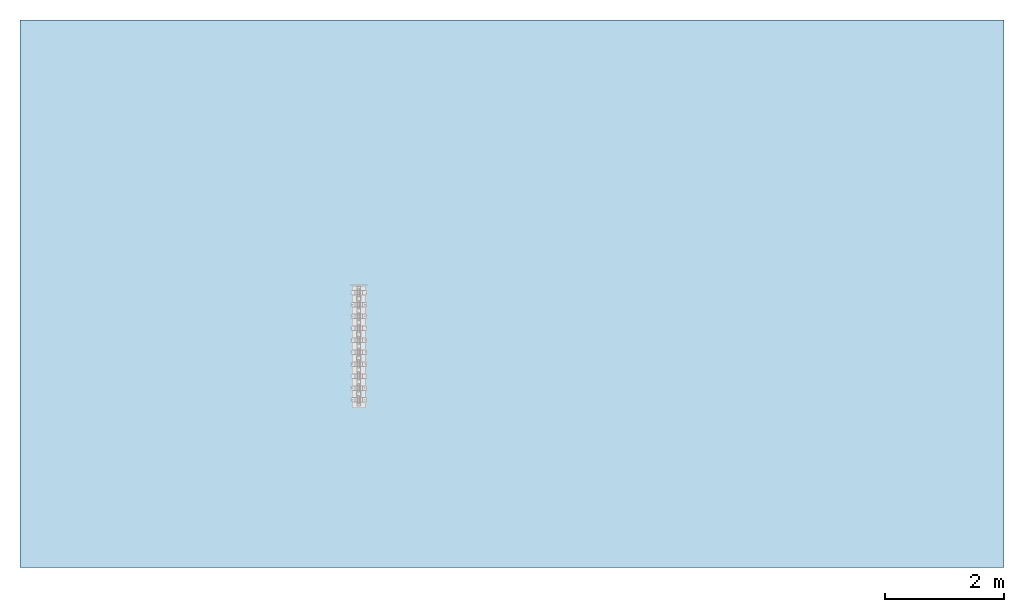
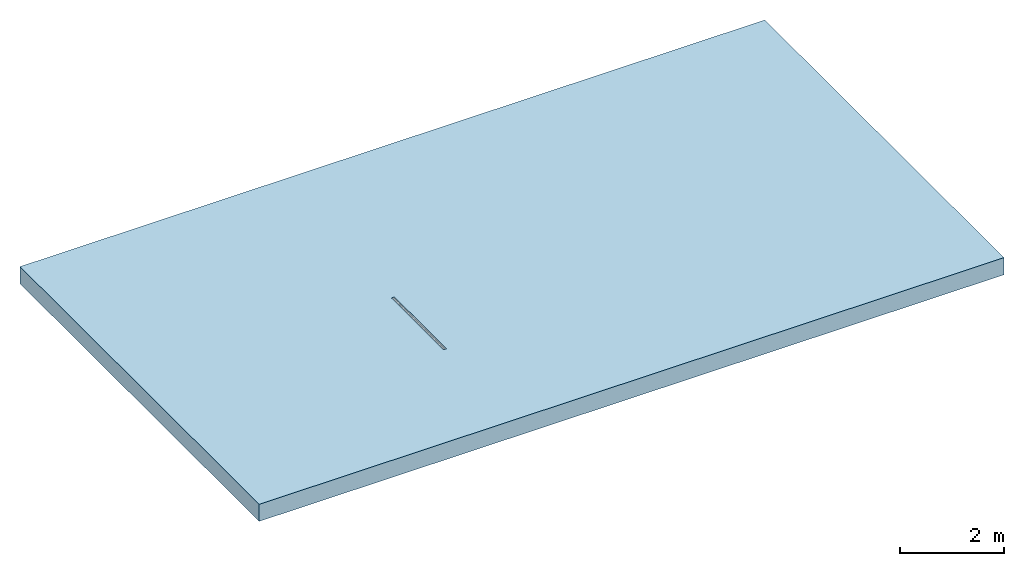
# One storey, incomplete: 1 slab, 1 opening.
"""IFC2X3 building model written with IfcOpenShell, lengths in millimetres."""

from ifc_helpers import new_model, entity, si_unit, converted_unit, direction, frame, frame_2d, origin, place, context, subcontext, project, spatial, polyline, rectangle, outline, extrude, material, layer, layer_set, layer_usage, element, save


model = new_model("IFC2X3")

# Units and contexts
model_context = context("Model", 3, precision=1e-06, world=origin(), true_north=direction((2.0, 6.12303176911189e-17, 1.0)))
context_of_model = context(None, 3, precision=1e-06, world=origin(), true_north=direction((2.0, 6.12303176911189e-17, 1.0)))
body_context = subcontext(model_context, "Body", "Model", "MODEL_VIEW")
ifc_project = project(units=[si_unit("LENGTHUNIT", "METRE", prefix="MILLI"), si_unit("AREAUNIT", "SQUARE_METRE", prefix="MILLI"), si_unit("VOLUMEUNIT", "CUBIC_METRE", prefix="MILLI"), converted_unit("PLANEANGLEUNIT", "DEGREE", entity("IfcRatioMeasure", 0.0174532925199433), si_unit("PLANEANGLEUNIT", "RADIAN"), dimensions=[0, 0, 0, 0, 0, 0, 0]), si_unit("TIMEUNIT", "SECOND")], contexts=[model_context, context_of_model])

# Site, building, storey
site_placement = place(None, origin())
site = spatial("IfcSite", under=ifc_project, at=site_placement, Name="Default", CompositionType="ELEMENT")
building_placement = place(site_placement, origin())
building = spatial("IfcBuilding", under=site, at=building_placement, CompositionType="ELEMENT")
storey_placement = place(building_placement, origin())
storey = spatial("IfcBuildingStorey", under=building, at=storey_placement, Name="Level 1", CompositionType="ELEMENT", Elevation=0.0)

# Slab, opening
ifc_material = material(Name="Plant")
ifc_layer = layer(ifc_material, 400.0)
ifc_layer_set = layer_set([ifc_layer], Name="Floor:Generic Floor - 400mm")
ifc_layer_usage = layer_usage(ifc_layer_set, "AXIS3", "POSITIVE", 0.0)
slab_placement = place(storey_placement, frame((-17967.0691536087, -3738.31688706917, -400.0)))
slab = element("IfcSlab", 1, at=slab_placement, inside=storey, material=ifc_layer_usage, Name="Floor:Generic Floor - 400mm", ObjectType="Floor:Generic Floor - 400mm", PredefinedType="FLOOR", context=body_context, shape_type="SweptSolid", body=[
    extrude(rectangle(XDim=9180.0, YDim=16500.0, at=frame_2d((0.0, 0.0), x_axis=(0.0, -1.0))), frame((8250.0, 4590.0, 400.0), z_axis=(0.0, 0.0, -1.0), x_axis=(-1.0, 0.0, 0.0)), (0.0, 0.0, 1.0), 400.0),
])
opening_placement = place(slab_placement, origin())
element("IfcOpeningElement", 2, at=opening_placement, cuts=slab, ObjectType="Opening", context=body_context, shape_type="SweptSolid", body=[
    extrude(outline(polyline([(-135.0, 32.5000000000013), (-135.0, -32.4999999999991), (-105.0, -32.4999999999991), (-105.0, -157.499999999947), (345.0, -157.499999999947), (345.0, 157.499999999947), (-105.0, 157.499999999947), (-105.0, 32.5000000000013), (-135.0, 32.5000000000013)])), frame((5680.64834349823, 2709.71652765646, 265.0), z_axis=(0.0, -1.0, 0.0), x_axis=(0.0, 0.0, -1.0)), (0.0, 0.0, -1.0), 2000.0),
])

save(model, "model.ifc")
